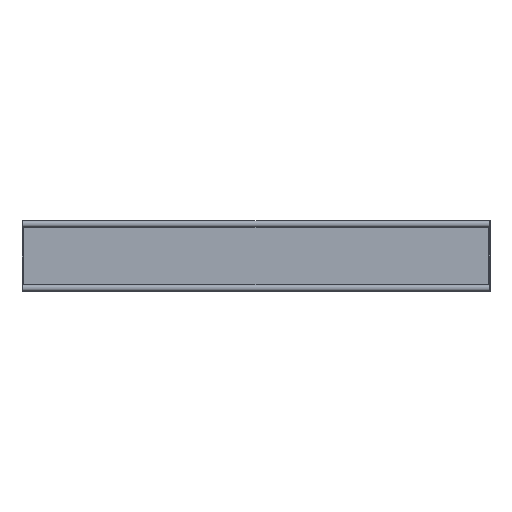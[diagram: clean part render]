
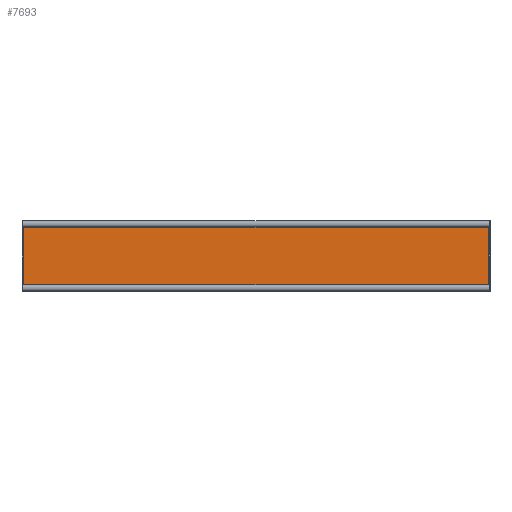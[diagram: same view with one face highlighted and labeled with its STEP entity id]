
A CAD part, front view. The second image highlights one B-rep face of the part: STEP entity #7693.
In plain terms, the highlighted planar face has unit normal (0, -1, 0).
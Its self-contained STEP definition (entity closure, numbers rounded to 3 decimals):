
#441 = EDGE_CURVE ( 'NONE', #7002, #6346, #4246, .T. ) ;
#514 = ORIENTED_EDGE ( 'NONE', *, *, #3554, .F. ) ;
#552 = VERTEX_POINT ( 'NONE', #5725 ) ;
#584 = DIRECTION ( 'NONE',  ( 0., -1., 0. ) ) ;
#971 = CIRCLE ( 'NONE', #6588, 5. ) ;
#1003 = CARTESIAN_POINT ( 'NONE',  ( -749., -2., -108.5 ) ) ;
#1026 = DIRECTION ( 'NONE',  ( 0., 0., 1. ) ) ;
#1032 = ORIENTED_EDGE ( 'NONE', *, *, #2668, .F. ) ;
#1061 = CARTESIAN_POINT ( 'NONE',  ( -746., -2., -107.5 ) ) ;
#1066 = DIRECTION ( 'NONE',  ( 0., -1., 0. ) ) ;
#1068 = ORIENTED_EDGE ( 'NONE', *, *, #4924, .F. ) ;
#1147 = CARTESIAN_POINT ( 'NONE',  ( -749., -2., -111.5 ) ) ;
#1238 = CARTESIAN_POINT ( 'NONE',  ( -749., -2., 108.5 ) ) ;
#1251 = DIRECTION ( 'NONE',  ( 0., 0., 1. ) ) ;
#1296 = PLANE ( 'NONE',  #3259 ) ;
#1362 = EDGE_LOOP ( 'NONE', ( #8408, #8053, #1032, #3257, #514, #7476, #1068, #7030 ) ) ;
#1689 = VECTOR ( 'NONE', #3906, 1000. ) ;
#1820 = DIRECTION ( 'NONE',  ( 0., 0., 1. ) ) ;
#1834 = DIRECTION ( 'NONE',  ( 0., 0., 1. ) ) ;
#1923 = CARTESIAN_POINT ( 'NONE',  ( 749., -2., -111.5 ) ) ;
#2153 = FACE_OUTER_BOUND ( 'NONE', #1362, .T. ) ;
#2277 = AXIS2_PLACEMENT_3D ( 'NONE', #7329, #584, #8083 ) ;
#2423 = LINE ( 'NONE', #1003, #1689 ) ;
#2498 = LINE ( 'NONE', #7865, #5638 ) ;
#2546 = CARTESIAN_POINT ( 'NONE',  ( 746., -2., -111.5 ) ) ;
#2668 = EDGE_CURVE ( 'NONE', #6346, #8052, #9659, .T. ) ;
#2758 = AXIS2_PLACEMENT_3D ( 'NONE', #1147, #6566, #3397 ) ;
#2783 = EDGE_CURVE ( 'NONE', #8205, #5074, #2498, .T. ) ;
#2796 = CARTESIAN_POINT ( 'NONE',  ( 746., -2., 107.5 ) ) ;
#2826 = EDGE_CURVE ( 'NONE', #552, #8052, #3379, .T. ) ;
#3257 = ORIENTED_EDGE ( 'NONE', *, *, #441, .F. ) ;
#3259 = AXIS2_PLACEMENT_3D ( 'NONE', #3551, #5905, #1251 ) ;
#3379 = LINE ( 'NONE', #2546, #7900 ) ;
#3397 = DIRECTION ( 'NONE',  ( 0., 0., 1. ) ) ;
#3417 = VERTEX_POINT ( 'NONE', #4037 ) ;
#3532 = CARTESIAN_POINT ( 'NONE',  ( -746., -2., 107.5 ) ) ;
#3551 = CARTESIAN_POINT ( 'NONE',  ( -749., -2., -111.5 ) ) ;
#3554 = EDGE_CURVE ( 'NONE', #5074, #7002, #971, .T. ) ;
#3796 = VECTOR ( 'NONE', #8917, 1000. ) ;
#3906 = DIRECTION ( 'NONE',  ( 1., 0., 0. ) ) ;
#4010 = CARTESIAN_POINT ( 'NONE',  ( 745., -2., 108.5 ) ) ;
#4037 = CARTESIAN_POINT ( 'NONE',  ( 745., -2., -108.5 ) ) ;
#4246 = LINE ( 'NONE', #1238, #3796 ) ;
#4354 = AXIS2_PLACEMENT_3D ( 'NONE', #1923, #1066, #1820 ) ;
#4688 = EDGE_CURVE ( 'NONE', #552, #3417, #9010, .T. ) ;
#4695 = CARTESIAN_POINT ( 'NONE',  ( -745., -2., 108.5 ) ) ;
#4924 = EDGE_CURVE ( 'NONE', #7964, #8205, #5309, .T. ) ;
#5074 = VERTEX_POINT ( 'NONE', #3532 ) ;
#5309 = CIRCLE ( 'NONE', #2758, 5. ) ;
#5638 = VECTOR ( 'NONE', #1834, 1000. ) ;
#5643 = DIRECTION ( 'NONE',  ( 0., -1., 0. ) ) ;
#5693 = CARTESIAN_POINT ( 'NONE',  ( -749., -2., 111.5 ) ) ;
#5725 = CARTESIAN_POINT ( 'NONE',  ( 746., -2., -107.5 ) ) ;
#5905 = DIRECTION ( 'NONE',  ( 0., 1., 0. ) ) ;
#6346 = VERTEX_POINT ( 'NONE', #4010 ) ;
#6501 = DIRECTION ( 'NONE',  ( 0., 0., 1. ) ) ;
#6566 = DIRECTION ( 'NONE',  ( 0., -1., 0. ) ) ;
#6588 = AXIS2_PLACEMENT_3D ( 'NONE', #5693, #5643, #1026 ) ;
#7002 = VERTEX_POINT ( 'NONE', #4695 ) ;
#7030 = ORIENTED_EDGE ( 'NONE', *, *, #8327, .T. ) ;
#7329 = CARTESIAN_POINT ( 'NONE',  ( 749., -2., 111.5 ) ) ;
#7476 = ORIENTED_EDGE ( 'NONE', *, *, #2783, .F. ) ;
#7693 = ADVANCED_FACE ( 'NONE', ( #2153 ), #1296, .F. ) ;
#7865 = CARTESIAN_POINT ( 'NONE',  ( -746., -2., -111.5 ) ) ;
#7900 = VECTOR ( 'NONE', #6501, 1000. ) ;
#7964 = VERTEX_POINT ( 'NONE', #8129 ) ;
#8052 = VERTEX_POINT ( 'NONE', #2796 ) ;
#8053 = ORIENTED_EDGE ( 'NONE', *, *, #2826, .T. ) ;
#8083 = DIRECTION ( 'NONE',  ( 0., 0., 1. ) ) ;
#8129 = CARTESIAN_POINT ( 'NONE',  ( -745., -2., -108.5 ) ) ;
#8205 = VERTEX_POINT ( 'NONE', #1061 ) ;
#8327 = EDGE_CURVE ( 'NONE', #7964, #3417, #2423, .T. ) ;
#8408 = ORIENTED_EDGE ( 'NONE', *, *, #4688, .F. ) ;
#8917 = DIRECTION ( 'NONE',  ( 1., 0., 0. ) ) ;
#9010 = CIRCLE ( 'NONE', #4354, 5. ) ;
#9659 = CIRCLE ( 'NONE', #2277, 5. ) ;
